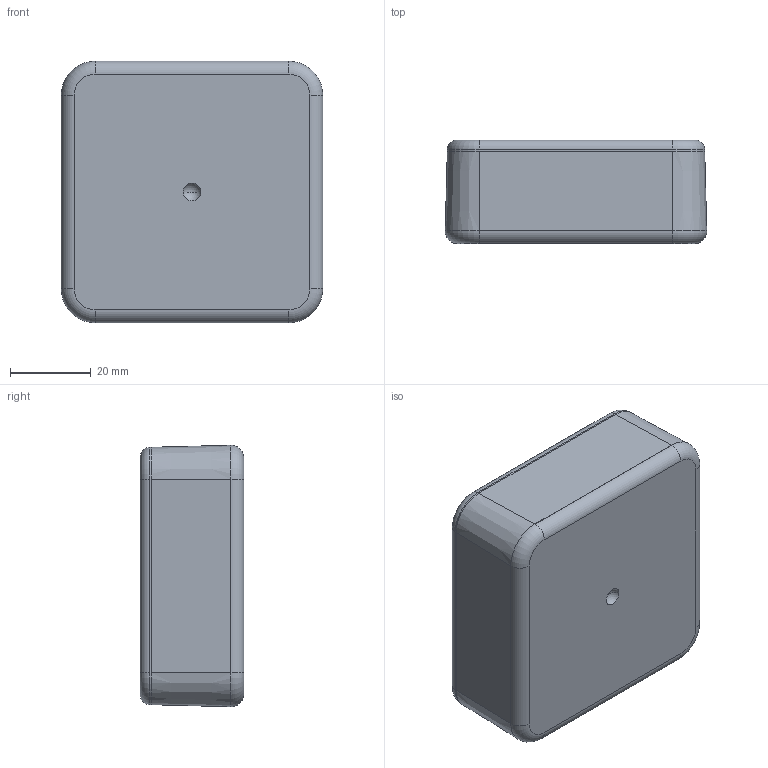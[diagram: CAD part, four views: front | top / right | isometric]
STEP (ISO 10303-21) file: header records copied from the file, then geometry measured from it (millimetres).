
FILE_DESCRIPTION (( 'STEP AP214' ), '1' );
FILE_NAME ('LP-11PMBR_ASS''Y.STEP', '2010-07-21T19:13:38', ( ' ' ), ( '' ), 'SwSTEP 2.0', 'SolidWorks 2010', '' );
FILE_SCHEMA (( 'AUTOMOTIVE_DESIGN' ));
Length unit declared in the file: inch
Products named in the file (4): SCREWS-LP-BR_SCREWS-LP-BR; LP-11PMBR_ASS''Y; LP-11C_LP-11C-R; LP-11B_LP-11BPMB
Assembly tree (6 placements, depth 2):
  LP-11PMBR_ASS''Y
    SCREWS-LP-BR_SCREWS-LP-BR  x4
    LP-11C_LP-11C-R
    LP-11B_LP-11BPMB
Bounding box: 64.64 x 25.58 x 64.64 mm (x, y, z)
Volume: 35527.4 mm3; surface area: 30081.1 mm2
Topology: 6 solids, 6 shells, 472 faces, 1262 edges, 822 vertices
Faces by surface type: cylinder 216, plane 132, cone 80, torus 18, bspline 16, sphere 10
Entity records: 9205 total; most frequent: CARTESIAN_POINT 2699, DIRECTION 1369, ORIENTED_EDGE 1338, EDGE_CURVE 669, AXIS2_PLACEMENT_3D 545, VERTEX_POINT 432, EDGE_LOOP 295, LINE 279
